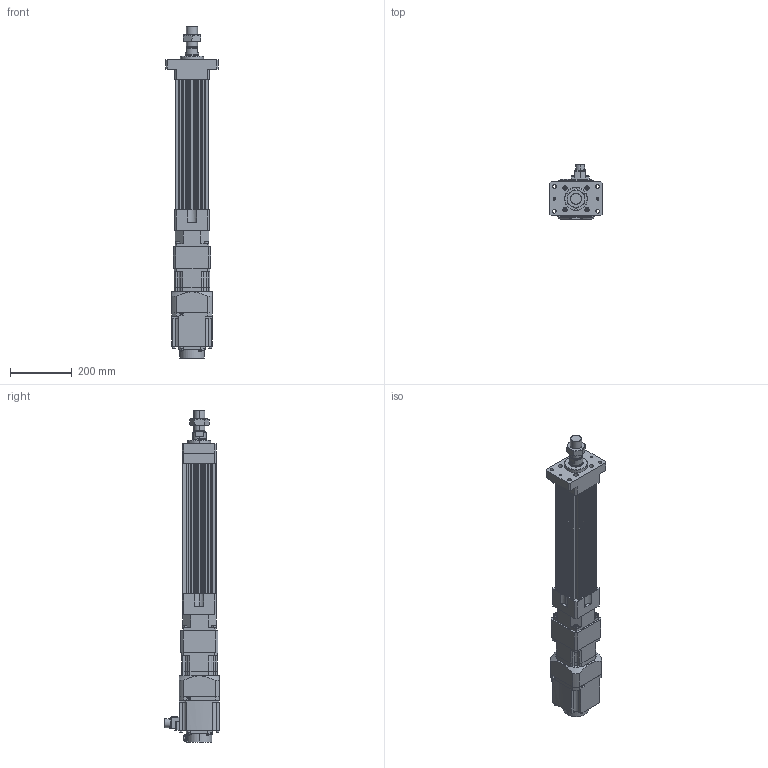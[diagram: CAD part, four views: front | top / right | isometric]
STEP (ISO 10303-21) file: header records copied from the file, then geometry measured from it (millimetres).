
FILE_DESCRIPTION (( 'STEP AP203' ), '1' );
FILE_NAME ('HES110NS(HS)-S250-W015G00-M-FM.STEP', '2023-01-28T06:06:45', ( 'tms' ), ( '' ), 'SwSTEP 2.0', 'SolidWorks 2013', '' );
FILE_SCHEMA (( 'CONFIG_CONTROL_DESIGN' ));
Length unit declared in the file: millimetre
Products named in the file (8): HES110-S250-G120-FM; AB115-003[HG-SR152]; M36X1.5P; AB1151; P0401400706; HES110NS(HS)-S250-W015G00-M-FM; HES110 ROD M ST250; HG-SR152
Assembly tree (7 placements, depth 3):
  HES110NS(HS)-S250-W015G00-M-FM
    HES110-S250-G120-FM
    HES110 ROD M ST250
    M36X1.5P
    AB115-003[HG-SR152]
      AB1151
      P0401400706
    HG-SR152
Bounding box: 170 x 177.49 x 1071.5 mm (x, y, z)
Volume: 7033152.3 mm3; surface area: 947653.5 mm2
Topology: 4 solids, 15 shells, 1170 faces, 2958 edges, 1925 vertices
Faces by surface type: plane 559, cylinder 525, cone 74, bspline 8, torus 4
Entity records: 36974 total; most frequent: CARTESIAN_POINT 7028, DIRECTION 6389, ORIENTED_EDGE 5864, EDGE_CURVE 2942, AXIS2_PLACEMENT_3D 2346, VERTEX_POINT 1925, VECTOR 1697, LINE 1697
